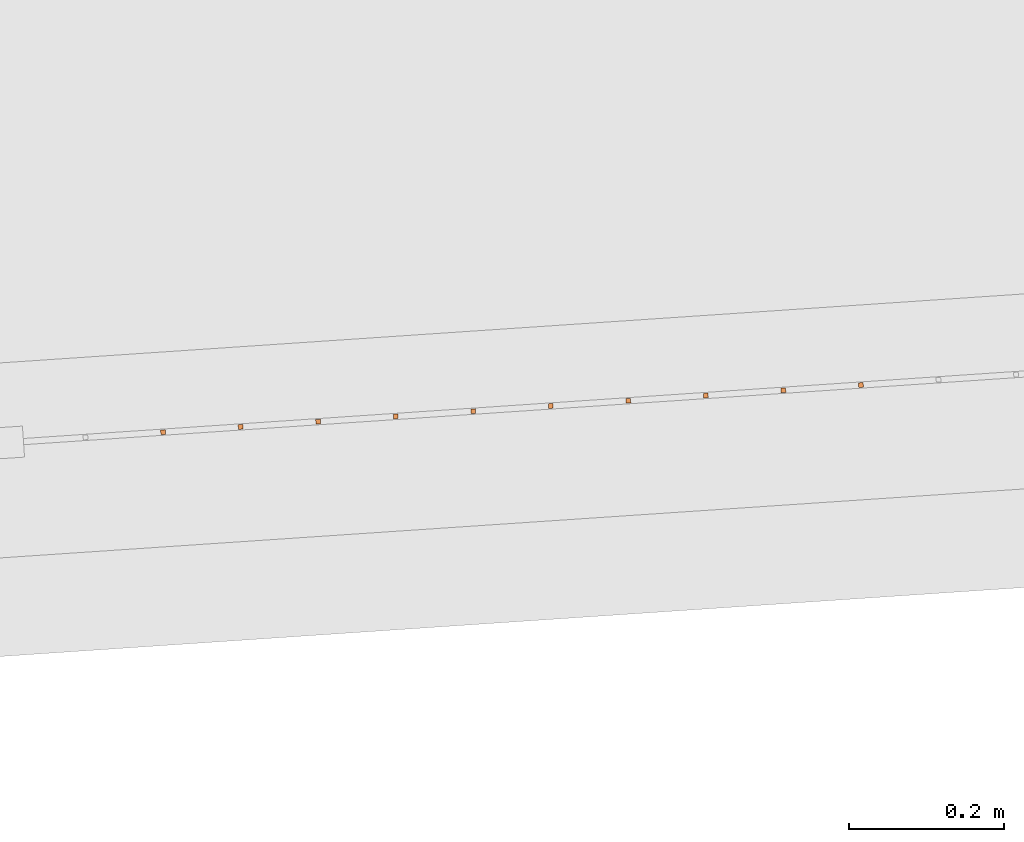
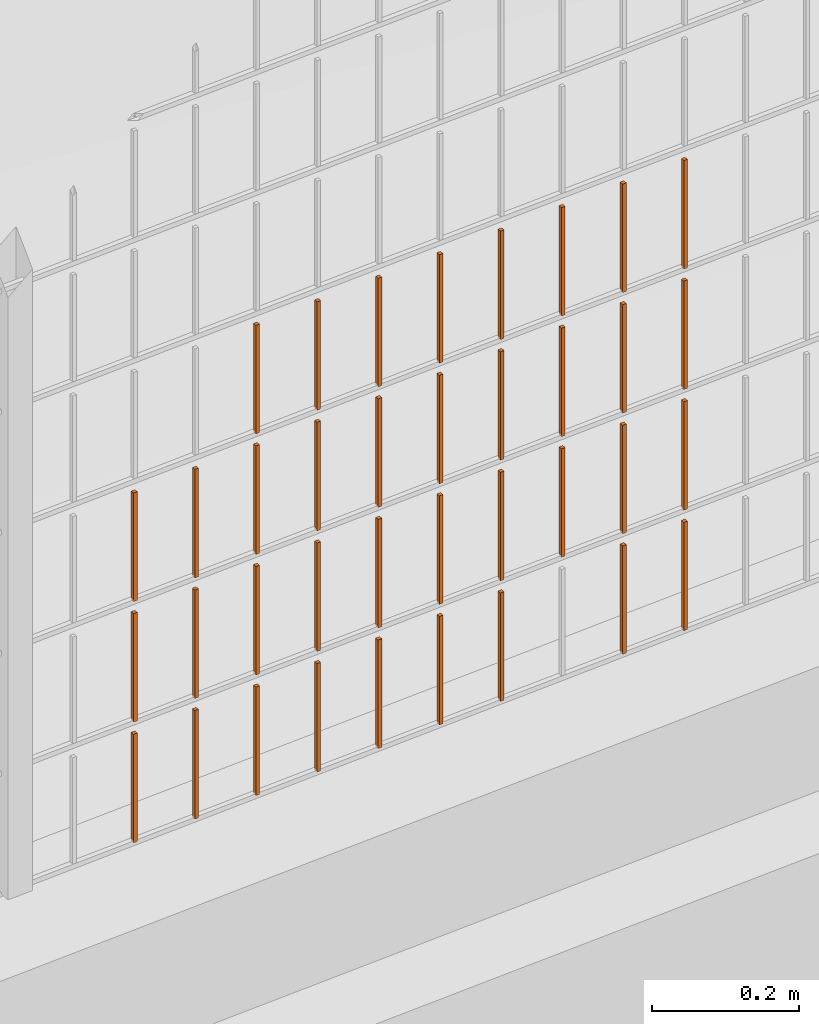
# One storey, part 380 of 1809: 37 proxies, 1 element without a shape of its own.
"""IFC2X3 building model written with IfcOpenShell, lengths in millimetres."""

from ifc_helpers import new_model, entity, si_unit, converted_unit, derived_unit, money_unit, direction, frame, origin_with_axes, place, context, subcontext, project, spatial, faceted_brep, source, transform, mapped, material, type_object, element, aggregate, save


model = new_model("IFC2X3")

# Units and contexts
model_context = context("Model", 3, precision=0.01, world=origin_with_axes(), true_north=direction((0.0, 1.0)))
body_context = subcontext(model_context, "Body", "Model", "MODEL_VIEW")
ifc_project = project(units=[si_unit("LENGTHUNIT", "METRE", prefix="MILLI"), si_unit("AREAUNIT", "SQUARE_METRE"), si_unit("VOLUMEUNIT", "CUBIC_METRE"), converted_unit("PLANEANGLEUNIT", "DEGREE", entity("IfcPlaneAngleMeasure", 0.0174532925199), si_unit("PLANEANGLEUNIT", "RADIAN"), dimensions=[0, 0, 0, 0, 0, 0, 0]), si_unit("SOLIDANGLEUNIT", "STERADIAN"), money_unit("EUR"), converted_unit("TIMEUNIT", "Year", entity("IfcTimeMeasure", 31556926.0), si_unit("TIMEUNIT", "SECOND"), dimensions=[0, 0, 1, 0, 0, 0, 0]), si_unit("MASSUNIT", "GRAM", prefix="KILO"), si_unit("THERMODYNAMICTEMPERATUREUNIT", "DEGREE_CELSIUS"), si_unit("LUMINOUSINTENSITYUNIT", "LUMEN"), si_unit("ENERGYUNIT", "JOULE", prefix="MEGA"), derived_unit("THERMALCONDUCTANCEUNIT", [(si_unit("POWERUNIT", "WATT"), 1), (si_unit("LENGTHUNIT", "METRE"), -1), (si_unit("THERMODYNAMICTEMPERATUREUNIT", "KELVIN"), -1)]), derived_unit("SPECIFICHEATCAPACITYUNIT", [(si_unit("ENERGYUNIT", "JOULE"), 1), (si_unit("MASSUNIT", "GRAM", prefix="KILO"), -1), (si_unit("THERMODYNAMICTEMPERATUREUNIT", "KELVIN"), -1)]), derived_unit("MASSDENSITYUNIT", [(si_unit("MASSUNIT", "GRAM", prefix="KILO"), 1), (si_unit("VOLUMEUNIT", "CUBIC_METRE"), -1)])], contexts=[model_context])

# Site, building, storey
site_placement = place(None, origin_with_axes())
site = spatial("IfcSite", under=ifc_project, at=site_placement, Name="Politse- ja Piirivalveameti ning Päästeameti ühishoone", CompositionType="ELEMENT")
building_placement = place(site_placement, origin_with_axes())
building = spatial("IfcBuilding", under=site, at=building_placement, Name="Politse- ja Piirivalveameti ning Päästeameti ühishoone", CompositionType="ELEMENT")
storey_placement = place(building_placement, origin_with_axes())
storey = spatial("IfcBuildingStorey", under=building, at=storey_placement, Name="Esimene korrus", CompositionType="ELEMENT", Elevation=0.0)

# Proxies
building_element_proxy_type_1 = type_object("IfcBuildingElementProxyType", Name="Railing Type", PredefinedType="NOTDEFINED")
proxy_1_placement = place(storey_placement, frame((89252.001212, -29183.4766571, 203.661247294), z_axis=(0.0, 0.0, 1.0), x_axis=(1.0, 0.0, 0.0)))
proxy_1 = element("IfcBuildingElementProxy", 1, at=proxy_1_placement, inside=storey, type_object=building_element_proxy_type_1, Name="PIIRDEAED")
ifc_material = material(Name="ET-03_Raud")
building_element_proxy_type_2 = type_object("IfcBuildingElementProxyType", Name="IfcBuildingElementProxy", PredefinedType="NOTDEFINED")
shared_shape_1 = source(origin_with_axes(), body_context, "Body", "Brep", [
    faceted_brep([(3.0, 3.0, -0.000752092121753), (-3.0, 3.0, -0.000752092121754), (-3.0, 3.0, 179.99926046), (3.0, 3.0, 179.99926046), (3.0, -3.0, 0.000752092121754), (-3.0, -3.0, 0.000752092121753), (-3.0, -3.0, 180.000764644), (3.0, -3.0, 180.000764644)], [[[0, 1, 2, 3]], [[0, 4, 5, 1]], [[1, 5, 6, 2]], [[3, 2, 6, 7]], [[4, 0, 3, 7]], [[5, 4, 7, 6]]]),
])
proxy_2_placement = place(proxy_1_placement, frame((-16289.569738, -18398.0737228, 23.1413277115), z_axis=(0.0, 0.0, 1.0), x_axis=(1.0, 0.0, 0.0)))
proxy_2 = element("IfcBuildingElementProxy", 2, at=proxy_2_placement, type_object=building_element_proxy_type_2, material=ifc_material, Name="BALUSTER - 001", context=body_context, shape_type="MappedRepresentation", body=[
    mapped(shared_shape_1, transform((0.0, 0.0, 0.0), x_axis=(-0.0673926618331, 0.997726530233, 0.0), y_axis=(-0.997726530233, -0.0673926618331, 0.0), z_axis=(0.0, 0.0, 1.0))),
])
shared_shape_2 = source(origin_with_axes(), body_context, "Body", "Brep", [
    faceted_brep([(3.0, 3.0, -0.000752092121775), (-3.0, 3.0, -0.000752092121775), (-3.0, 3.0, 179.99926046), (3.0, 3.0, 179.99926046), (3.0, -3.0, 0.000752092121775), (-3.0, -3.0, 0.000752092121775), (-3.0, -3.0, 180.000764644), (3.0, -3.0, 180.000764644)], [[[0, 1, 2, 3]], [[0, 4, 5, 1]], [[1, 5, 6, 2]], [[3, 2, 6, 7]], [[4, 0, 3, 7]], [[5, 4, 7, 6]]]),
])
proxy_3_placement = place(proxy_1_placement, frame((-16588.8876971, -18418.2915213, 23.0661184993), z_axis=(0.0, 0.0, 1.0), x_axis=(1.0, 0.0, 0.0)))
proxy_3 = element("IfcBuildingElementProxy", 3, at=proxy_3_placement, type_object=building_element_proxy_type_2, material=ifc_material, Name="BALUSTER - 001", context=body_context, shape_type="MappedRepresentation", body=[
    mapped(shared_shape_2, transform((0.0, 0.0, 0.0), x_axis=(-0.0673926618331, 0.997726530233, 0.0), y_axis=(-0.997726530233, -0.0673926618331, 0.0), z_axis=(0.0, 0.0, 1.0))),
])
shared_shape_3 = source(origin_with_axes(), body_context, "Body", "Brep", [
    faceted_brep([(3.0, 3.0, -0.000752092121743), (-3.0, 3.0, -0.000752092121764), (-3.0, 3.0, 179.99926046), (3.0, 3.0, 179.99926046), (3.0, -3.0, 0.000752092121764), (-3.0, -3.0, 0.000752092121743), (-3.0, -3.0, 180.000764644), (3.0, -3.0, 180.000764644)], [[[0, 1, 2, 3]], [[0, 4, 5, 1]], [[1, 5, 6, 2]], [[3, 2, 6, 7]], [[4, 0, 3, 7]], [[5, 4, 7, 6]]]),
])
proxy_4_placement = place(proxy_1_placement, frame((-16888.2056561, -18438.5093199, 22.9909092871), z_axis=(0.0, 0.0, 1.0), x_axis=(1.0, 0.0, 0.0)))
proxy_4 = element("IfcBuildingElementProxy", 4, at=proxy_4_placement, type_object=building_element_proxy_type_2, material=ifc_material, Name="BALUSTER - 001", context=body_context, shape_type="MappedRepresentation", body=[
    mapped(shared_shape_3, transform((0.0, 0.0, 0.0), x_axis=(-0.0673926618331, 0.997726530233, 0.0), y_axis=(-0.997726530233, -0.0673926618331, 0.0), z_axis=(0.0, 0.0, 1.0))),
])
shared_shape_4 = source(origin_with_axes(), body_context, "Body", "Brep", [
    faceted_brep([(3.0, 3.0, -0.000752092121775), (-3.0, 3.0, -0.000752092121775), (-3.0, 3.0, 179.99926046), (3.0, 3.0, 179.99926046), (3.0, -3.0, 0.000752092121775), (-3.0, -3.0, 0.000752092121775), (-3.0, -3.0, 180.000764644), (3.0, -3.0, 180.000764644)], [[[0, 1, 2, 3]], [[0, 4, 5, 1]], [[1, 5, 6, 2]], [[3, 2, 6, 7]], [[4, 0, 3, 7]], [[5, 4, 7, 6]]]),
])
proxy_5_placement = place(proxy_1_placement, frame((-17087.7509622, -18451.9878523, 22.9407698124), z_axis=(0.0, 0.0, 1.0), x_axis=(1.0, 0.0, 0.0)))
proxy_5 = element("IfcBuildingElementProxy", 5, at=proxy_5_placement, type_object=building_element_proxy_type_2, material=ifc_material, Name="BALUSTER - 001", context=body_context, shape_type="MappedRepresentation", body=[
    mapped(shared_shape_4, transform((0.0, 0.0, 0.0), x_axis=(-0.0673926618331, 0.997726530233, 0.0), y_axis=(-0.997726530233, -0.0673926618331, 0.0), z_axis=(0.0, 0.0, 1.0))),
])
shared_shape_5 = source(origin_with_axes(), body_context, "Body", "Brep", [
    faceted_brep([(3.0, 3.0, -0.000752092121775), (-3.0, 3.0, -0.000752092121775), (-3.0, 3.0, 179.99926046), (3.0, 3.0, 179.99926046), (3.0, -3.0, 0.000752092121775), (-3.0, -3.0, 0.000752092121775), (-3.0, -3.0, 180.000764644), (3.0, -3.0, 180.000764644)], [[[0, 1, 2, 3]], [[0, 4, 5, 1]], [[1, 5, 6, 2]], [[3, 2, 6, 7]], [[4, 0, 3, 7]], [[5, 4, 7, 6]]]),
])
proxy_6_placement = place(proxy_1_placement, frame((-16389.342391, -18404.812989, 223.116257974), z_axis=(0.0, 0.0, 1.0), x_axis=(1.0, 0.0, 0.0)))
proxy_6 = element("IfcBuildingElementProxy", 6, at=proxy_6_placement, type_object=building_element_proxy_type_2, material=ifc_material, Name="BALUSTER - 001", context=body_context, shape_type="MappedRepresentation", body=[
    mapped(shared_shape_5, transform((0.0, 0.0, 0.0), x_axis=(-0.0673926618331, 0.997726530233, 0.0), y_axis=(-0.997726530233, -0.0673926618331, 0.0), z_axis=(0.0, 0.0, 1.0))),
])
proxy_7_placement = place(proxy_1_placement, frame((-16588.8876971, -18418.2915213, 423.066118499), z_axis=(0.0, 0.0, 1.0), x_axis=(1.0, 0.0, 0.0)))
proxy_7 = element("IfcBuildingElementProxy", 7, at=proxy_7_placement, type_object=building_element_proxy_type_2, material=ifc_material, Name="BALUSTER - 001", context=body_context, shape_type="MappedRepresentation", body=[
    mapped(shared_shape_5, transform((0.0, 0.0, 0.0), x_axis=(-0.0673926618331, 0.997726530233, 0.0), y_axis=(-0.997726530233, -0.0673926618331, 0.0), z_axis=(0.0, 0.0, 1.0))),
])
proxy_8_placement = place(proxy_1_placement, frame((-16389.342391, -18404.812989, 623.116257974), z_axis=(0.0, 0.0, 1.0), x_axis=(1.0, 0.0, 0.0)))
proxy_8 = element("IfcBuildingElementProxy", 8, at=proxy_8_placement, type_object=building_element_proxy_type_2, material=ifc_material, Name="BALUSTER - 001", context=body_context, shape_type="MappedRepresentation", body=[
    mapped(shared_shape_5, transform((0.0, 0.0, 0.0), x_axis=(-0.0673926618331, 0.997726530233, 0.0), y_axis=(-0.997726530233, -0.0673926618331, 0.0), z_axis=(0.0, 0.0, 1.0))),
])
proxy_9_placement = place(proxy_1_placement, frame((-16588.8876971, -18418.2915213, 623.066118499), z_axis=(0.0, 0.0, 1.0), x_axis=(1.0, 0.0, 0.0)))
proxy_9 = element("IfcBuildingElementProxy", 9, at=proxy_9_placement, type_object=building_element_proxy_type_2, material=ifc_material, Name="BALUSTER - 001", context=body_context, shape_type="MappedRepresentation", body=[
    mapped(shared_shape_5, transform((0.0, 0.0, 0.0), x_axis=(-0.0673926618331, 0.997726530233, 0.0), y_axis=(-0.997726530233, -0.0673926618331, 0.0), z_axis=(0.0, 0.0, 1.0))),
])
shared_shape_6 = source(origin_with_axes(), body_context, "Body", "Brep", [
    faceted_brep([(3.0, 3.0, -0.000752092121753), (-3.0, 3.0, -0.000752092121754), (-3.0, 3.0, 179.99926046), (3.0, 3.0, 179.99926046), (3.0, -3.0, 0.000752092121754), (-3.0, -3.0, 0.000752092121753), (-3.0, -3.0, 180.000764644), (3.0, -3.0, 180.000764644)], [[[0, 1, 2, 3]], [[0, 4, 5, 1]], [[1, 5, 6, 2]], [[3, 2, 6, 7]], [[4, 0, 3, 7]], [[5, 4, 7, 6]]]),
])
proxy_10_placement = place(proxy_1_placement, frame((-16289.569738, -18398.0737228, 223.141327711), z_axis=(0.0, 0.0, 1.0), x_axis=(1.0, 0.0, 0.0)))
proxy_10 = element("IfcBuildingElementProxy", 10, at=proxy_10_placement, type_object=building_element_proxy_type_2, material=ifc_material, Name="BALUSTER - 001", context=body_context, shape_type="MappedRepresentation", body=[
    mapped(shared_shape_6, transform((0.0, 0.0, 0.0), x_axis=(-0.0673926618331, 0.997726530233, 0.0), y_axis=(-0.997726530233, -0.0673926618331, 0.0), z_axis=(0.0, 0.0, 1.0))),
])
proxy_11_placement = place(proxy_1_placement, frame((-16289.569738, -18398.0737228, 423.141327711), z_axis=(0.0, 0.0, 1.0), x_axis=(1.0, 0.0, 0.0)))
proxy_11 = element("IfcBuildingElementProxy", 11, at=proxy_11_placement, type_object=building_element_proxy_type_2, material=ifc_material, Name="BALUSTER - 001", context=body_context, shape_type="MappedRepresentation", body=[
    mapped(shared_shape_6, transform((0.0, 0.0, 0.0), x_axis=(-0.0673926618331, 0.997726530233, 0.0), y_axis=(-0.997726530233, -0.0673926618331, 0.0), z_axis=(0.0, 0.0, 1.0))),
])
shared_shape_7 = source(origin_with_axes(), body_context, "Body", "Brep", [
    faceted_brep([(3.0, 3.0, -0.000752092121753), (-3.0, 3.0, -0.000752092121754), (-3.0, 3.0, 179.99926046), (3.0, 3.0, 179.99926046), (3.0, -3.0, 0.000752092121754), (-3.0, -3.0, 0.000752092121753), (-3.0, -3.0, 180.000764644), (3.0, -3.0, 180.000764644)], [[[0, 1, 2, 3]], [[0, 4, 5, 1]], [[1, 5, 6, 2]], [[3, 2, 6, 7]], [[4, 0, 3, 7]], [[5, 4, 7, 6]]]),
])
proxy_12_placement = place(proxy_1_placement, frame((-16987.9783091, -18445.2485861, 222.96583955), z_axis=(0.0, 0.0, 1.0), x_axis=(1.0, 0.0, 0.0)))
proxy_12 = element("IfcBuildingElementProxy", 12, at=proxy_12_placement, type_object=building_element_proxy_type_2, material=ifc_material, Name="BALUSTER - 001", context=body_context, shape_type="MappedRepresentation", body=[
    mapped(shared_shape_7, transform((0.0, 0.0, 0.0), x_axis=(-0.0673926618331, 0.997726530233, 0.0), y_axis=(-0.997726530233, -0.0673926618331, 0.0), z_axis=(0.0, 0.0, 1.0))),
])
proxy_13_placement = place(proxy_1_placement, frame((-16688.6603501, -18425.0307875, 423.041048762), z_axis=(0.0, 0.0, 1.0), x_axis=(1.0, 0.0, 0.0)))
proxy_13 = element("IfcBuildingElementProxy", 13, at=proxy_13_placement, type_object=building_element_proxy_type_2, material=ifc_material, Name="BALUSTER - 001", context=body_context, shape_type="MappedRepresentation", body=[
    mapped(shared_shape_7, transform((0.0, 0.0, 0.0), x_axis=(-0.0673926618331, 0.997726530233, 0.0), y_axis=(-0.997726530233, -0.0673926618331, 0.0), z_axis=(0.0, 0.0, 1.0))),
])
proxy_14_placement = place(proxy_1_placement, frame((-16987.9783091, -18445.2485861, 422.96583955), z_axis=(0.0, 0.0, 1.0), x_axis=(1.0, 0.0, 0.0)))
proxy_14 = element("IfcBuildingElementProxy", 14, at=proxy_14_placement, type_object=building_element_proxy_type_2, material=ifc_material, Name="BALUSTER - 001", context=body_context, shape_type="MappedRepresentation", body=[
    mapped(shared_shape_7, transform((0.0, 0.0, 0.0), x_axis=(-0.0673926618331, 0.997726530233, 0.0), y_axis=(-0.997726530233, -0.0673926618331, 0.0), z_axis=(0.0, 0.0, 1.0))),
])
shared_shape_8 = source(origin_with_axes(), body_context, "Body", "Brep", [
    faceted_brep([(3.0, 3.0, -0.000752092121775), (-3.0, 3.0, -0.000752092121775), (-3.0, 3.0, 179.99926046), (3.0, 3.0, 179.99926046), (3.0, -3.0, 0.000752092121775), (-3.0, -3.0, 0.000752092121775), (-3.0, -3.0, 180.000764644), (3.0, -3.0, 180.000764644)], [[[0, 1, 2, 3]], [[0, 4, 5, 1]], [[1, 5, 6, 2]], [[3, 2, 6, 7]], [[4, 0, 3, 7]], [[5, 4, 7, 6]]]),
])
proxy_15_placement = place(proxy_1_placement, frame((-17087.7509622, -18451.9878523, 422.940769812), z_axis=(0.0, 0.0, 1.0), x_axis=(1.0, 0.0, 0.0)))
proxy_15 = element("IfcBuildingElementProxy", 15, at=proxy_15_placement, type_object=building_element_proxy_type_2, material=ifc_material, Name="BALUSTER - 001", context=body_context, shape_type="MappedRepresentation", body=[
    mapped(shared_shape_8, transform((0.0, 0.0, 0.0), x_axis=(-0.0673926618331, 0.997726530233, 0.0), y_axis=(-0.997726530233, -0.0673926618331, 0.0), z_axis=(0.0, 0.0, 1.0))),
])
shared_shape_9 = source(origin_with_axes(), body_context, "Body", "Brep", [
    faceted_brep([(3.0, 3.0, -0.000752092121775), (-3.0, 3.0, -0.000752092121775), (-3.0, 3.0, 179.99926046), (3.0, 3.0, 179.99926046), (3.0, -3.0, 0.000752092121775), (-3.0, -3.0, 0.000752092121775), (-3.0, -3.0, 180.000764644), (3.0, -3.0, 180.000764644)], [[[0, 1, 2, 3]], [[0, 4, 5, 1]], [[1, 5, 6, 2]], [[3, 2, 6, 7]], [[4, 0, 3, 7]], [[5, 4, 7, 6]]]),
])
proxy_16_placement = place(proxy_1_placement, frame((-17087.7509622, -18451.9878523, 222.940769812), z_axis=(0.0, 0.0, 1.0), x_axis=(1.0, 0.0, 0.0)))
proxy_16 = element("IfcBuildingElementProxy", 16, at=proxy_16_placement, type_object=building_element_proxy_type_2, material=ifc_material, Name="BALUSTER - 001", context=body_context, shape_type="MappedRepresentation", body=[
    mapped(shared_shape_9, transform((0.0, 0.0, 0.0), x_axis=(-0.0673926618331, 0.997726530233, 0.0), y_axis=(-0.997726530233, -0.0673926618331, 0.0), z_axis=(0.0, 0.0, 1.0))),
])
shared_shape_10 = source(origin_with_axes(), body_context, "Body", "Brep", [
    faceted_brep([(3.0, 3.0, -0.000752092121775), (-3.0, 3.0, -0.000752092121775), (-3.0, 3.0, 179.99926046), (3.0, 3.0, 179.99926046), (3.0, -3.0, 0.000752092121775), (-3.0, -3.0, 0.000752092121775), (-3.0, -3.0, 180.000764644), (3.0, -3.0, 180.000764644)], [[[0, 1, 2, 3]], [[0, 4, 5, 1]], [[1, 5, 6, 2]], [[3, 2, 6, 7]], [[4, 0, 3, 7]], [[5, 4, 7, 6]]]),
])
proxy_17_placement = place(proxy_1_placement, frame((-16489.115044, -18411.5522552, 223.091188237), z_axis=(0.0, 0.0, 1.0), x_axis=(1.0, 0.0, 0.0)))
proxy_17 = element("IfcBuildingElementProxy", 17, at=proxy_17_placement, type_object=building_element_proxy_type_2, material=ifc_material, Name="BALUSTER - 001", context=body_context, shape_type="MappedRepresentation", body=[
    mapped(shared_shape_10, transform((0.0, 0.0, 0.0), x_axis=(-0.0673926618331, 0.997726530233, 0.0), y_axis=(-0.997726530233, -0.0673926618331, 0.0), z_axis=(0.0, 0.0, 1.0))),
])
proxy_18_placement = place(proxy_1_placement, frame((-16489.115044, -18411.5522552, 423.091188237), z_axis=(0.0, 0.0, 1.0), x_axis=(1.0, 0.0, 0.0)))
proxy_18 = element("IfcBuildingElementProxy", 18, at=proxy_18_placement, type_object=building_element_proxy_type_2, material=ifc_material, Name="BALUSTER - 001", context=body_context, shape_type="MappedRepresentation", body=[
    mapped(shared_shape_10, transform((0.0, 0.0, 0.0), x_axis=(-0.0673926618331, 0.997726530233, 0.0), y_axis=(-0.997726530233, -0.0673926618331, 0.0), z_axis=(0.0, 0.0, 1.0))),
])
shared_shape_11 = source(origin_with_axes(), body_context, "Body", "Brep", [
    faceted_brep([(3.0, 3.0, -0.000752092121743), (-3.0, 3.0, -0.000752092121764), (-3.0, 3.0, 179.99926046), (3.0, 3.0, 179.99926046), (3.0, -3.0, 0.000752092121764), (-3.0, -3.0, 0.000752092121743), (-3.0, -3.0, 180.000764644), (3.0, -3.0, 180.000764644)], [[[0, 1, 2, 3]], [[0, 4, 5, 1]], [[1, 5, 6, 2]], [[3, 2, 6, 7]], [[4, 0, 3, 7]], [[5, 4, 7, 6]]]),
])
proxy_19_placement = place(proxy_1_placement, frame((-16189.797085, -18391.3344566, 423.166397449), z_axis=(0.0, 0.0, 1.0), x_axis=(1.0, 0.0, 0.0)))
proxy_19 = element("IfcBuildingElementProxy", 19, at=proxy_19_placement, type_object=building_element_proxy_type_2, material=ifc_material, Name="BALUSTER - 001", context=body_context, shape_type="MappedRepresentation", body=[
    mapped(shared_shape_11, transform((0.0, 0.0, 0.0), x_axis=(-0.0673926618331, 0.997726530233, 0.0), y_axis=(-0.997726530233, -0.0673926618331, 0.0), z_axis=(0.0, 0.0, 1.0))),
])
proxy_20_placement = place(proxy_1_placement, frame((-16788.4330031, -18431.7700537, 423.015979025), z_axis=(0.0, 0.0, 1.0), x_axis=(1.0, 0.0, 0.0)))
proxy_20 = element("IfcBuildingElementProxy", 20, at=proxy_20_placement, type_object=building_element_proxy_type_2, material=ifc_material, Name="BALUSTER - 001", context=body_context, shape_type="MappedRepresentation", body=[
    mapped(shared_shape_11, transform((0.0, 0.0, 0.0), x_axis=(-0.0673926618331, 0.997726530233, 0.0), y_axis=(-0.997726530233, -0.0673926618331, 0.0), z_axis=(0.0, 0.0, 1.0))),
])
proxy_21_placement = place(proxy_1_placement, frame((-16888.2056561, -18438.5093199, 422.990909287), z_axis=(0.0, 0.0, 1.0), x_axis=(1.0, 0.0, 0.0)))
proxy_21 = element("IfcBuildingElementProxy", 21, at=proxy_21_placement, type_object=building_element_proxy_type_2, material=ifc_material, Name="BALUSTER - 001", context=body_context, shape_type="MappedRepresentation", body=[
    mapped(shared_shape_11, transform((0.0, 0.0, 0.0), x_axis=(-0.0673926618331, 0.997726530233, 0.0), y_axis=(-0.997726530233, -0.0673926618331, 0.0), z_axis=(0.0, 0.0, 1.0))),
])
shared_shape_12 = source(origin_with_axes(), body_context, "Body", "Brep", [
    faceted_brep([(3.0, 3.0, -0.000752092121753), (-3.0, 3.0, -0.000752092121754), (-3.0, 3.0, 179.99926046), (3.0, 3.0, 179.99926046), (3.0, -3.0, 0.000752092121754), (-3.0, -3.0, 0.000752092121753), (-3.0, -3.0, 180.000764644), (3.0, -3.0, 180.000764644)], [[[0, 1, 2, 3]], [[0, 4, 5, 1]], [[1, 5, 6, 2]], [[3, 2, 6, 7]], [[4, 0, 3, 7]], [[5, 4, 7, 6]]]),
])
proxy_22_placement = place(proxy_1_placement, frame((-16289.569738, -18398.0737228, 623.141327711), z_axis=(0.0, 0.0, 1.0), x_axis=(1.0, 0.0, 0.0)))
proxy_22 = element("IfcBuildingElementProxy", 22, at=proxy_22_placement, type_object=building_element_proxy_type_2, material=ifc_material, Name="BALUSTER - 001", context=body_context, shape_type="MappedRepresentation", body=[
    mapped(shared_shape_12, transform((0.0, 0.0, 0.0), x_axis=(-0.0673926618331, 0.997726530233, 0.0), y_axis=(-0.997726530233, -0.0673926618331, 0.0), z_axis=(0.0, 0.0, 1.0))),
])
shared_shape_13 = source(origin_with_axes(), body_context, "Body", "Brep", [
    faceted_brep([(3.0, 3.0, -0.000752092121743), (-3.0, 3.0, -0.000752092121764), (-3.0, 3.0, 179.99926046), (3.0, 3.0, 179.99926046), (3.0, -3.0, 0.000752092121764), (-3.0, -3.0, 0.000752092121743), (-3.0, -3.0, 180.000764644), (3.0, -3.0, 180.000764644)], [[[0, 1, 2, 3]], [[0, 4, 5, 1]], [[1, 5, 6, 2]], [[3, 2, 6, 7]], [[4, 0, 3, 7]], [[5, 4, 7, 6]]]),
])
proxy_23_placement = place(proxy_1_placement, frame((-16788.4330031, -18431.7700537, 623.015979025), z_axis=(0.0, 0.0, 1.0), x_axis=(1.0, 0.0, 0.0)))
proxy_23 = element("IfcBuildingElementProxy", 23, at=proxy_23_placement, type_object=building_element_proxy_type_2, material=ifc_material, Name="BALUSTER - 001", context=body_context, shape_type="MappedRepresentation", body=[
    mapped(shared_shape_13, transform((0.0, 0.0, 0.0), x_axis=(-0.0673926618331, 0.997726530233, 0.0), y_axis=(-0.997726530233, -0.0673926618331, 0.0), z_axis=(0.0, 0.0, 1.0))),
])
shared_shape_14 = source(origin_with_axes(), body_context, "Body", "Brep", [
    faceted_brep([(3.0, 3.0, -0.000752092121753), (-3.0, 3.0, -0.000752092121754), (-3.0, 3.0, 179.99926046), (3.0, 3.0, 179.99926046), (3.0, -3.0, 0.000752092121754), (-3.0, -3.0, 0.000752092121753), (-3.0, -3.0, 180.000764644), (3.0, -3.0, 180.000764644)], [[[0, 1, 2, 3]], [[0, 4, 5, 1]], [[1, 5, 6, 2]], [[3, 2, 6, 7]], [[4, 0, 3, 7]], [[5, 4, 7, 6]]]),
])
proxy_24_placement = place(proxy_1_placement, frame((-16688.6603501, -18425.0307875, 623.041048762), z_axis=(0.0, 0.0, 1.0), x_axis=(1.0, 0.0, 0.0)))
proxy_24 = element("IfcBuildingElementProxy", 24, at=proxy_24_placement, type_object=building_element_proxy_type_2, material=ifc_material, Name="BALUSTER - 001", context=body_context, shape_type="MappedRepresentation", body=[
    mapped(shared_shape_14, transform((0.0, 0.0, 0.0), x_axis=(-0.0673926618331, 0.997726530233, 0.0), y_axis=(-0.997726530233, -0.0673926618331, 0.0), z_axis=(0.0, 0.0, 1.0))),
])
shared_shape_15 = source(origin_with_axes(), body_context, "Body", "Brep", [
    faceted_brep([(3.0, 3.0, -0.000752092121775), (-3.0, 3.0, -0.000752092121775), (-3.0, 3.0, 179.99926046), (3.0, 3.0, 179.99926046), (3.0, -3.0, 0.000752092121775), (-3.0, -3.0, 0.000752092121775), (-3.0, -3.0, 180.000764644), (3.0, -3.0, 180.000764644)], [[[0, 1, 2, 3]], [[0, 4, 5, 1]], [[1, 5, 6, 2]], [[3, 2, 6, 7]], [[4, 0, 3, 7]], [[5, 4, 7, 6]]]),
])
proxy_25_placement = place(proxy_1_placement, frame((-16489.115044, -18411.5522552, 23.0911882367), z_axis=(0.0, 0.0, 1.0), x_axis=(1.0, 0.0, 0.0)))
proxy_25 = element("IfcBuildingElementProxy", 25, at=proxy_25_placement, type_object=building_element_proxy_type_2, material=ifc_material, Name="BALUSTER - 001", context=body_context, shape_type="MappedRepresentation", body=[
    mapped(shared_shape_15, transform((0.0, 0.0, 0.0), x_axis=(-0.0673926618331, 0.997726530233, 0.0), y_axis=(-0.997726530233, -0.0673926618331, 0.0), z_axis=(0.0, 0.0, 1.0))),
])
shared_shape_16 = source(origin_with_axes(), body_context, "Body", "Brep", [
    faceted_brep([(3.0, 3.0, -0.000752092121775), (-3.0, 3.0, -0.000752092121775), (-3.0, 3.0, 179.99926046), (3.0, 3.0, 179.99926046), (3.0, -3.0, 0.000752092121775), (-3.0, -3.0, 0.000752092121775), (-3.0, -3.0, 180.000764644), (3.0, -3.0, 180.000764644)], [[[0, 1, 2, 3]], [[0, 4, 5, 1]], [[1, 5, 6, 2]], [[3, 2, 6, 7]], [[4, 0, 3, 7]], [[5, 4, 7, 6]]]),
])
proxy_26_placement = place(proxy_1_placement, frame((-16389.342391, -18404.812989, 423.116257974), z_axis=(0.0, 0.0, 1.0), x_axis=(1.0, 0.0, 0.0)))
proxy_26 = element("IfcBuildingElementProxy", 26, at=proxy_26_placement, type_object=building_element_proxy_type_2, material=ifc_material, Name="BALUSTER - 001", context=body_context, shape_type="MappedRepresentation", body=[
    mapped(shared_shape_16, transform((0.0, 0.0, 0.0), x_axis=(-0.0673926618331, 0.997726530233, 0.0), y_axis=(-0.997726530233, -0.0673926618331, 0.0), z_axis=(0.0, 0.0, 1.0))),
])
shared_shape_17 = source(origin_with_axes(), body_context, "Body", "Brep", [
    faceted_brep([(3.0, 3.0, -0.000752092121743), (-3.0, 3.0, -0.000752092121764), (-3.0, 3.0, 179.99926046), (3.0, 3.0, 179.99926046), (3.0, -3.0, 0.000752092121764), (-3.0, -3.0, 0.000752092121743), (-3.0, -3.0, 180.000764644), (3.0, -3.0, 180.000764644)], [[[0, 1, 2, 3]], [[0, 4, 5, 1]], [[1, 5, 6, 2]], [[3, 2, 6, 7]], [[4, 0, 3, 7]], [[5, 4, 7, 6]]]),
])
proxy_27_placement = place(proxy_1_placement, frame((-16888.2056561, -18438.5093199, 222.990909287), z_axis=(0.0, 0.0, 1.0), x_axis=(1.0, 0.0, 0.0)))
proxy_27 = element("IfcBuildingElementProxy", 27, at=proxy_27_placement, type_object=building_element_proxy_type_2, material=ifc_material, Name="BALUSTER - 001", context=body_context, shape_type="MappedRepresentation", body=[
    mapped(shared_shape_17, transform((0.0, 0.0, 0.0), x_axis=(-0.0673926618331, 0.997726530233, 0.0), y_axis=(-0.997726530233, -0.0673926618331, 0.0), z_axis=(0.0, 0.0, 1.0))),
])
shared_shape_18 = source(origin_with_axes(), body_context, "Body", "Brep", [
    faceted_brep([(3.0, 3.0, -0.000752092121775), (-3.0, 3.0, -0.000752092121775), (-3.0, 3.0, 179.99926046), (3.0, 3.0, 179.99926046), (3.0, -3.0, 0.000752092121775), (-3.0, -3.0, 0.000752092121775), (-3.0, -3.0, 180.000764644), (3.0, -3.0, 180.000764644)], [[[0, 1, 2, 3]], [[0, 4, 5, 1]], [[1, 5, 6, 2]], [[3, 2, 6, 7]], [[4, 0, 3, 7]], [[5, 4, 7, 6]]]),
])
proxy_28_placement = place(proxy_1_placement, frame((-16489.115044, -18411.5522552, 623.091188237), z_axis=(0.0, 0.0, 1.0), x_axis=(1.0, 0.0, 0.0)))
proxy_28 = element("IfcBuildingElementProxy", 28, at=proxy_28_placement, type_object=building_element_proxy_type_2, material=ifc_material, Name="BALUSTER - 001", context=body_context, shape_type="MappedRepresentation", body=[
    mapped(shared_shape_18, transform((0.0, 0.0, 0.0), x_axis=(-0.0673926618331, 0.997726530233, 0.0), y_axis=(-0.997726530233, -0.0673926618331, 0.0), z_axis=(0.0, 0.0, 1.0))),
])
shared_shape_19 = source(origin_with_axes(), body_context, "Body", "Brep", [
    faceted_brep([(3.0, 3.0, -0.000752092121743), (-3.0, 3.0, -0.000752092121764), (-3.0, 3.0, 179.99926046), (3.0, 3.0, 179.99926046), (3.0, -3.0, 0.000752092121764), (-3.0, -3.0, 0.000752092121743), (-3.0, -3.0, 180.000764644), (3.0, -3.0, 180.000764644)], [[[0, 1, 2, 3]], [[0, 4, 5, 1]], [[1, 5, 6, 2]], [[3, 2, 6, 7]], [[4, 0, 3, 7]], [[5, 4, 7, 6]]]),
])
proxy_29_placement = place(proxy_1_placement, frame((-16189.797085, -18391.3344566, 23.1663974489), z_axis=(0.0, 0.0, 1.0), x_axis=(1.0, 0.0, 0.0)))
proxy_29 = element("IfcBuildingElementProxy", 29, at=proxy_29_placement, type_object=building_element_proxy_type_2, material=ifc_material, Name="BALUSTER - 001", context=body_context, shape_type="MappedRepresentation", body=[
    mapped(shared_shape_19, transform((0.0, 0.0, 0.0), x_axis=(-0.0673926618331, 0.997726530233, 0.0), y_axis=(-0.997726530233, -0.0673926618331, 0.0), z_axis=(0.0, 0.0, 1.0))),
])
proxy_30_placement = place(proxy_1_placement, frame((-16788.4330031, -18431.7700537, 23.0159790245), z_axis=(0.0, 0.0, 1.0), x_axis=(1.0, 0.0, 0.0)))
proxy_30 = element("IfcBuildingElementProxy", 30, at=proxy_30_placement, type_object=building_element_proxy_type_2, material=ifc_material, Name="BALUSTER - 001", context=body_context, shape_type="MappedRepresentation", body=[
    mapped(shared_shape_19, transform((0.0, 0.0, 0.0), x_axis=(-0.0673926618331, 0.997726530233, 0.0), y_axis=(-0.997726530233, -0.0673926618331, 0.0), z_axis=(0.0, 0.0, 1.0))),
])
proxy_31_placement = place(proxy_1_placement, frame((-16788.4330031, -18431.7700537, 223.015979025), z_axis=(0.0, 0.0, 1.0), x_axis=(1.0, 0.0, 0.0)))
proxy_31 = element("IfcBuildingElementProxy", 31, at=proxy_31_placement, type_object=building_element_proxy_type_2, material=ifc_material, Name="BALUSTER - 001", context=body_context, shape_type="MappedRepresentation", body=[
    mapped(shared_shape_19, transform((0.0, 0.0, 0.0), x_axis=(-0.0673926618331, 0.997726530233, 0.0), y_axis=(-0.997726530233, -0.0673926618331, 0.0), z_axis=(0.0, 0.0, 1.0))),
])
shared_shape_20 = source(origin_with_axes(), body_context, "Body", "Brep", [
    faceted_brep([(3.0, 3.0, -0.000752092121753), (-3.0, 3.0, -0.000752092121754), (-3.0, 3.0, 179.99926046), (3.0, 3.0, 179.99926046), (3.0, -3.0, 0.000752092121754), (-3.0, -3.0, 0.000752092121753), (-3.0, -3.0, 180.000764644), (3.0, -3.0, 180.000764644)], [[[0, 1, 2, 3]], [[0, 4, 5, 1]], [[1, 5, 6, 2]], [[3, 2, 6, 7]], [[4, 0, 3, 7]], [[5, 4, 7, 6]]]),
])
proxy_32_placement = place(proxy_1_placement, frame((-16688.6603501, -18425.0307875, 23.0410487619), z_axis=(0.0, 0.0, 1.0), x_axis=(1.0, 0.0, 0.0)))
proxy_32 = element("IfcBuildingElementProxy", 32, at=proxy_32_placement, type_object=building_element_proxy_type_2, material=ifc_material, Name="BALUSTER - 001", context=body_context, shape_type="MappedRepresentation", body=[
    mapped(shared_shape_20, transform((0.0, 0.0, 0.0), x_axis=(-0.0673926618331, 0.997726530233, 0.0), y_axis=(-0.997726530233, -0.0673926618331, 0.0), z_axis=(0.0, 0.0, 1.0))),
])
proxy_33_placement = place(proxy_1_placement, frame((-16987.9783091, -18445.2485861, 22.9658395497), z_axis=(0.0, 0.0, 1.0), x_axis=(1.0, 0.0, 0.0)))
proxy_33 = element("IfcBuildingElementProxy", 33, at=proxy_33_placement, type_object=building_element_proxy_type_2, material=ifc_material, Name="BALUSTER - 001", context=body_context, shape_type="MappedRepresentation", body=[
    mapped(shared_shape_20, transform((0.0, 0.0, 0.0), x_axis=(-0.0673926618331, 0.997726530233, 0.0), y_axis=(-0.997726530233, -0.0673926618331, 0.0), z_axis=(0.0, 0.0, 1.0))),
])
shared_shape_21 = source(origin_with_axes(), body_context, "Body", "Brep", [
    faceted_brep([(3.0, 3.0, -0.000752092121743), (-3.0, 3.0, -0.000752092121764), (-3.0, 3.0, 179.99926046), (3.0, 3.0, 179.99926046), (3.0, -3.0, 0.000752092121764), (-3.0, -3.0, 0.000752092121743), (-3.0, -3.0, 180.000764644), (3.0, -3.0, 180.000764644)], [[[0, 1, 2, 3]], [[0, 4, 5, 1]], [[1, 5, 6, 2]], [[3, 2, 6, 7]], [[4, 0, 3, 7]], [[5, 4, 7, 6]]]),
])
proxy_34_placement = place(proxy_1_placement, frame((-16189.797085, -18391.3344566, 223.166397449), z_axis=(0.0, 0.0, 1.0), x_axis=(1.0, 0.0, 0.0)))
proxy_34 = element("IfcBuildingElementProxy", 34, at=proxy_34_placement, type_object=building_element_proxy_type_2, material=ifc_material, Name="BALUSTER - 001", context=body_context, shape_type="MappedRepresentation", body=[
    mapped(shared_shape_21, transform((0.0, 0.0, 0.0), x_axis=(-0.0673926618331, 0.997726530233, 0.0), y_axis=(-0.997726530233, -0.0673926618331, 0.0), z_axis=(0.0, 0.0, 1.0))),
])
shared_shape_22 = source(origin_with_axes(), body_context, "Body", "Brep", [
    faceted_brep([(3.0, 3.0, -0.000752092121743), (-3.0, 3.0, -0.000752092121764), (-3.0, 3.0, 179.99926046), (3.0, 3.0, 179.99926046), (3.0, -3.0, 0.000752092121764), (-3.0, -3.0, 0.000752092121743), (-3.0, -3.0, 180.000764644), (3.0, -3.0, 180.000764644)], [[[0, 1, 2, 3]], [[0, 4, 5, 1]], [[1, 5, 6, 2]], [[3, 2, 6, 7]], [[4, 0, 3, 7]], [[5, 4, 7, 6]]]),
])
proxy_35_placement = place(proxy_1_placement, frame((-16189.797085, -18391.3344566, 623.166397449), z_axis=(0.0, 0.0, 1.0), x_axis=(1.0, 0.0, 0.0)))
proxy_35 = element("IfcBuildingElementProxy", 35, at=proxy_35_placement, type_object=building_element_proxy_type_2, material=ifc_material, Name="BALUSTER - 001", context=body_context, shape_type="MappedRepresentation", body=[
    mapped(shared_shape_22, transform((0.0, 0.0, 0.0), x_axis=(-0.0673926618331, 0.997726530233, 0.0), y_axis=(-0.997726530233, -0.0673926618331, 0.0), z_axis=(0.0, 0.0, 1.0))),
])
proxy_36_placement = place(proxy_1_placement, frame((-16888.2056561, -18438.5093199, 622.990909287), z_axis=(0.0, 0.0, 1.0), x_axis=(1.0, 0.0, 0.0)))
proxy_36 = element("IfcBuildingElementProxy", 36, at=proxy_36_placement, type_object=building_element_proxy_type_2, material=ifc_material, Name="BALUSTER - 001", context=body_context, shape_type="MappedRepresentation", body=[
    mapped(shared_shape_22, transform((0.0, 0.0, 0.0), x_axis=(-0.0673926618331, 0.997726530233, 0.0), y_axis=(-0.997726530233, -0.0673926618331, 0.0), z_axis=(0.0, 0.0, 1.0))),
])
shared_shape_23 = source(origin_with_axes(), body_context, "Body", "Brep", [
    faceted_brep([(3.0, 3.0, -0.000752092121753), (-3.0, 3.0, -0.000752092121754), (-3.0, 3.0, 179.99926046), (3.0, 3.0, 179.99926046), (3.0, -3.0, 0.000752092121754), (-3.0, -3.0, 0.000752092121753), (-3.0, -3.0, 180.000764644), (3.0, -3.0, 180.000764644)], [[[0, 1, 2, 3]], [[0, 4, 5, 1]], [[1, 5, 6, 2]], [[3, 2, 6, 7]], [[4, 0, 3, 7]], [[5, 4, 7, 6]]]),
])
proxy_37_placement = place(proxy_1_placement, frame((-16688.6603501, -18425.0307875, 223.041048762), z_axis=(0.0, 0.0, 1.0), x_axis=(1.0, 0.0, 0.0)))
proxy_37 = element("IfcBuildingElementProxy", 37, at=proxy_37_placement, type_object=building_element_proxy_type_2, material=ifc_material, Name="BALUSTER - 001", context=body_context, shape_type="MappedRepresentation", body=[
    mapped(shared_shape_23, transform((0.0, 0.0, 0.0), x_axis=(-0.0673926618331, 0.997726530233, 0.0), y_axis=(-0.997726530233, -0.0673926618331, 0.0), z_axis=(0.0, 0.0, 1.0))),
])
shared_shape_24 = source(origin_with_axes(), body_context, "Body", "Brep", [
    faceted_brep([(3.0, 3.0, -0.000752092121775), (-3.0, 3.0, -0.000752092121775), (-3.0, 3.0, 179.99926046), (3.0, 3.0, 179.99926046), (3.0, -3.0, 0.000752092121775), (-3.0, -3.0, 0.000752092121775), (-3.0, -3.0, 180.000764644), (3.0, -3.0, 180.000764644)], [[[0, 1, 2, 3]], [[0, 4, 5, 1]], [[1, 5, 6, 2]], [[3, 2, 6, 7]], [[4, 0, 3, 7]], [[5, 4, 7, 6]]]),
])
proxy_38_placement = place(proxy_1_placement, frame((-16588.8876971, -18418.2915213, 223.066118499), z_axis=(0.0, 0.0, 1.0), x_axis=(1.0, 0.0, 0.0)))
proxy_38 = element("IfcBuildingElementProxy", 38, at=proxy_38_placement, type_object=building_element_proxy_type_2, material=ifc_material, Name="BALUSTER - 001", context=body_context, shape_type="MappedRepresentation", body=[
    mapped(shared_shape_24, transform((0.0, 0.0, 0.0), x_axis=(-0.0673926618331, 0.997726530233, 0.0), y_axis=(-0.997726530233, -0.0673926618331, 0.0), z_axis=(0.0, 0.0, 1.0))),
])
aggregate(proxy_1, [proxy_29, proxy_2, proxy_25, proxy_3, proxy_32, proxy_30, proxy_4, proxy_33, proxy_5, proxy_34, proxy_10, proxy_6, proxy_17, proxy_38, proxy_37, proxy_31, proxy_27, proxy_12, proxy_16, proxy_19, proxy_11, proxy_26, proxy_18, proxy_7, proxy_13, proxy_20, proxy_21, proxy_14, proxy_15, proxy_35, proxy_22, proxy_8, proxy_28, proxy_9, proxy_24, proxy_23, proxy_36])

save(model, "model.ifc")
